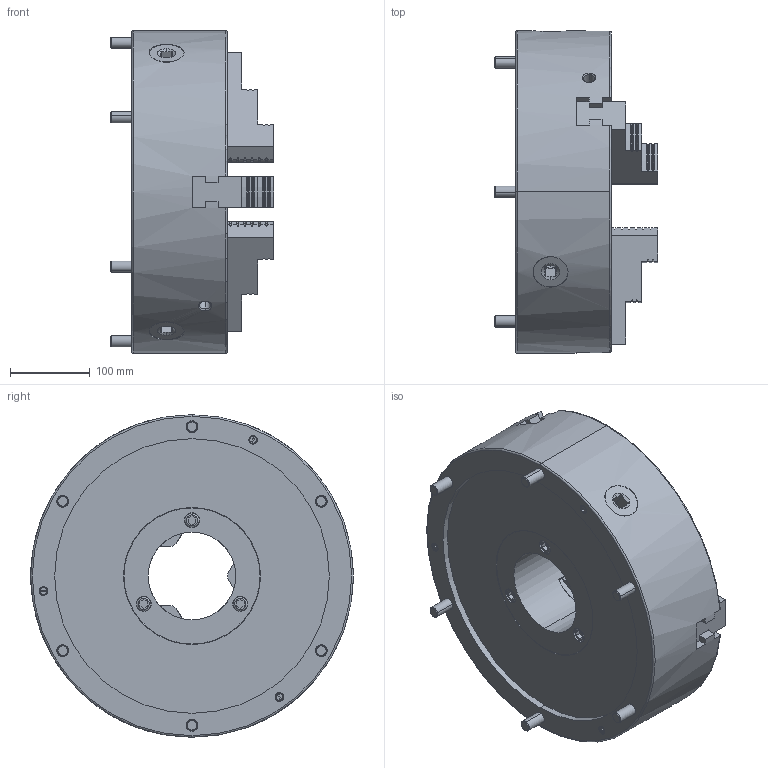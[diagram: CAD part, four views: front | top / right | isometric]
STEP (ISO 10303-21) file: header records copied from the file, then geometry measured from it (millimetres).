
FILE_DESCRIPTION (( 'STEP AP214' ), '1' );
FILE_NAME ('SC-16-113 61S2191894 ASSY.STEP', '2023-06-19T05:29:54', ( '' ), ( '' ), 'SwSTEP 2.0', 'SolidWorks 2020', '' );
FILE_SCHEMA (( 'AUTOMOTIVE_DESIGN' ));
Length unit declared in the file: millimetre
Products named in the file (2): SC-16-113; SC-16-113 61S2191894 ASSY
Assembly tree (1 placements, depth 2):
  SC-16-113 61S2191894 ASSY
    SC-16-113
Bounding box: 205 x 405 x 405 mm (x, y, z)
Volume: 14155872.6 mm3; surface area: 639692.7 mm2
Topology: 1 solids, 1 shells, 632 faces, 1710 edges, 1093 vertices
Faces by surface type: plane 238, cone 177, cylinder 151, torus 64, sphere 2
Entity records: 22273 total; most frequent: CARTESIAN_POINT 6593, ORIENTED_EDGE 3376, DIRECTION 3085, EDGE_CURVE 1688, AXIS2_PLACEMENT_3D 1185, VERTEX_POINT 1093, LINE 715, VECTOR 715
